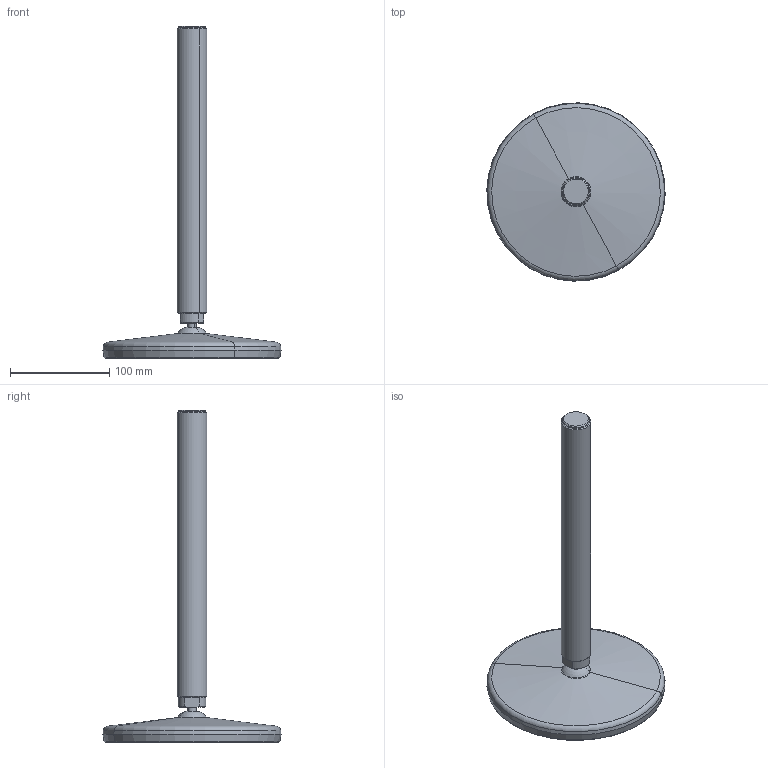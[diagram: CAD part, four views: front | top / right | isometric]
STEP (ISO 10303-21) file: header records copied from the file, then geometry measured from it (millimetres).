
FILE_DESCRIPTION(('CATIA V5 STEP Exchange'),'2;1');
FILE_NAME('C:\Users\dentellad\Desktop\P98005.stp','2017-01-27T13:06:54+00:00',('none'),('none'),'Version 5-6 Release 2012','CATIA V5 STEP AP203','none');
FILE_SCHEMA(('CONFIG_CONTROL_DESIGN'));
Length unit declared in the file: millimetre
Products named in the file (1): Product1
Assembly tree (2 placements, depth 2):
  Product1
    #58
    #1187
Bounding box: 179.95 x 179.95 x 334.98 mm (x, y, z)
Volume: 690571.6 mm3; surface area: 144940.3 mm2
Topology: 3 solids, 3 shells, 93 faces, 186 edges, 110 vertices
Faces by surface type: cone 36, plane 21, cylinder 16, torus 14, revolution 4, sphere 2
Entity records: 2267 total; most frequent: CARTESIAN_POINT 413, ORIENTED_EDGE 372, DIRECTION 304, EDGE_CURVE 186, AXIS2_PLACEMENT_3D 183, CIRCLE 122, VERTEX_POINT 110, EDGE_LOOP 106
